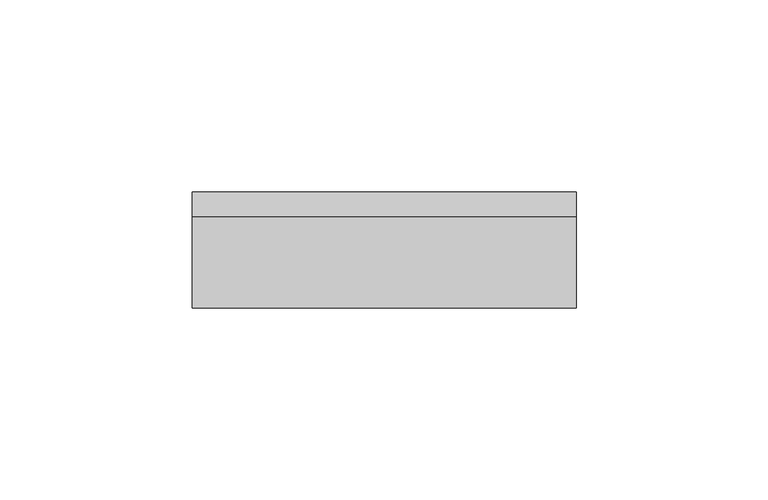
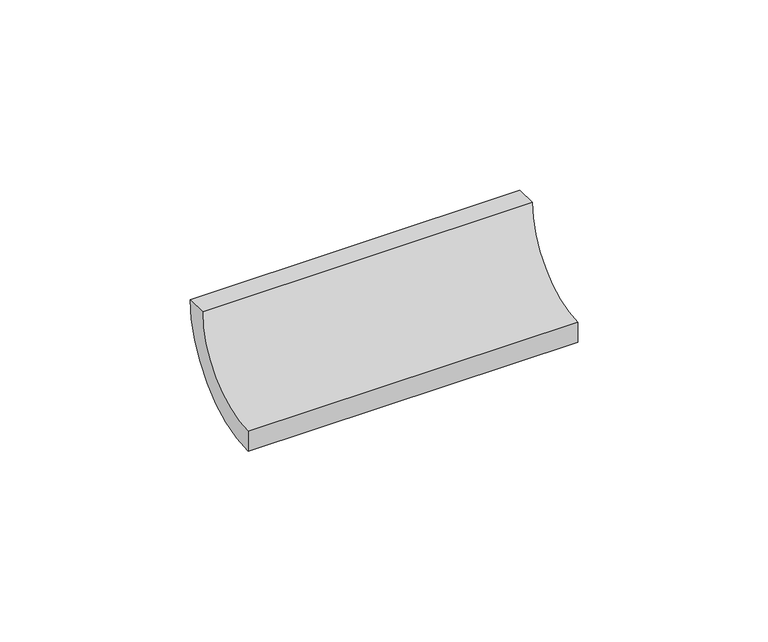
"""IFC4 building model written with IfcOpenShell, lengths in millimetres: proxy geometry, EXAGRES - Piscina Mediacaña : Publica_Azul_24.5x4cm."""

from ifc_helpers import new_model, si_unit, point, frame, frame_2d, origin, place, context, project, spatial, polyline, circle_curve, trimmed, segment, composite_curve, outline, extrude, source, transform, mapped, element, save


def generic_models_b073b66c(model_context):
    return source(origin(), model_context, "Body", "SweptSolid", [
        extrude(outline(composite_curve([segment(polyline([(0.0, 23.9), (6.4, 23.9)]), True, "CONTINUOUS"), segment(trimmed(circle_curve(frame_2d((-23.9, 23.9)), 30.3), [point((6.4, 23.9))], [point((-23.9, -6.4))], False, "CARTESIAN"), True, "CONTINUOUS"), segment(polyline([(-23.9, -6.4), (-23.9, 0.0)]), True, "CONTINUOUS"), segment(trimmed(circle_curve(frame_2d((-23.9, 23.9)), 23.9), [point((-23.9, 0.0))], [point((0.0, 23.9))], True, "CARTESIAN"), True, "CONTINUOUS")], self_intersect=False)), frame((0.0, 0.0, 0.0), z_axis=(1.0, 0.0, 0.0), x_axis=(0.0, 1.0, 0.0)), (0.0, 0.0, 1.0), 100.0),
    ])


if __name__ == "__main__":
    model = new_model("IFC4")
    model_context = context("Model", 3, world=origin())
    ifc_project = project(units=[si_unit("LENGTHUNIT", "METRE", prefix="MILLI")], contexts=[model_context])
    site = spatial("IfcSite", under=ifc_project)
    building = spatial("IfcBuilding", under=site)
    placement = place(None, origin())
    generic_models_shape = generic_models_b073b66c(model_context)
    element("IfcBuildingElementProxy", 1, Name="EXAGRES - Piscina Mediacaña : Publica_Azul_24.5x4cm", ObjectType="EXAGRES - Piscina Mediacaña : Publica_Azul_24.5x4cm", at=placement, inside=building, context=model_context, shape_type="MappedRepresentation", body=[
        mapped(generic_models_shape, transform((0.0, 0.0, 0.0), x_axis=(1.0, 0.0, 0.0), y_axis=(0.0, 1.0, 0.0), z_axis=(0.0, 0.0, 1.0))),
    ])
    save(model, "model.ifc")
